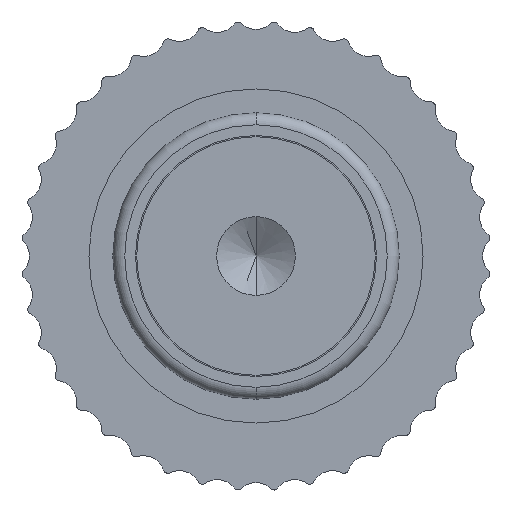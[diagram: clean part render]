
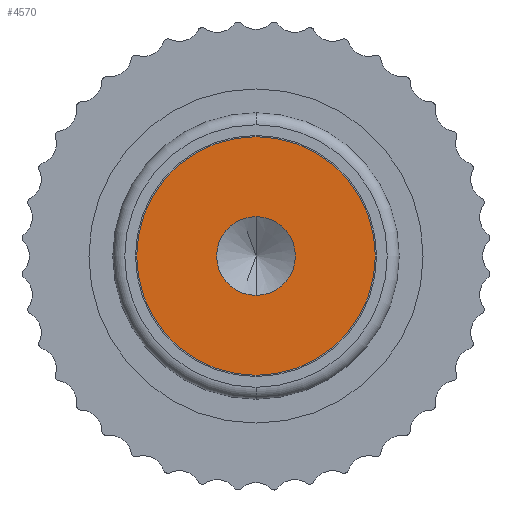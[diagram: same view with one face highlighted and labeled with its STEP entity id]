
A CAD part, front view. The second image highlights one B-rep face of the part: STEP entity #4570.
In plain terms, the highlighted planar face has unit normal (0, -1, 0).
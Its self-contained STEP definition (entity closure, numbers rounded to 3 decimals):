
#4 = FACE_BOUND ( 'NONE', #5237, .T. ) ;
#58 = EDGE_CURVE ( 'NONE', #85, #6948, #8779, .T. ) ;
#85 = VERTEX_POINT ( 'NONE', #5144 ) ;
#443 = EDGE_CURVE ( 'NONE', #5995, #527, #5630, .T. ) ;
#527 = VERTEX_POINT ( 'NONE', #3699 ) ;
#689 = ORIENTED_EDGE ( 'NONE', *, *, #58, .F. ) ;
#837 = CIRCLE ( 'NONE', #6977, 5. ) ;
#976 = CARTESIAN_POINT ( 'NONE',  ( 0., 0., 0. ) ) ;
#982 = EDGE_CURVE ( 'NONE', #527, #5995, #837, .T. ) ;
#1187 = EDGE_CURVE ( 'NONE', #6948, #85, #5299, .T. ) ;
#1288 = DIRECTION ( 'NONE',  ( 0., -1., 0. ) ) ;
#1539 = ORIENTED_EDGE ( 'NONE', *, *, #982, .T. ) ;
#1647 = DIRECTION ( 'NONE',  ( 0., 0., -1. ) ) ;
#1758 = AXIS2_PLACEMENT_3D ( 'NONE', #8092, #8116, #3931 ) ;
#1784 = CARTESIAN_POINT ( 'NONE',  ( 0., 0., 0. ) ) ;
#2477 = DIRECTION ( 'NONE',  ( 0., 0., -1. ) ) ;
#2551 = AXIS2_PLACEMENT_3D ( 'NONE', #1784, #6702, #2477 ) ;
#3233 = PLANE ( 'NONE',  #1758 ) ;
#3420 = FACE_OUTER_BOUND ( 'NONE', #7292, .T. ) ;
#3626 = DIRECTION ( 'NONE',  ( 0., -1., 0. ) ) ;
#3699 = CARTESIAN_POINT ( 'NONE',  ( 0., 0., -5. ) ) ;
#3931 = DIRECTION ( 'NONE',  ( 0., 0., -1. ) ) ;
#4570 = ADVANCED_FACE ( 'NONE', ( #4, #3420 ), #3233, .T. ) ;
#5144 = CARTESIAN_POINT ( 'NONE',  ( 0., 0., -1.65 ) ) ;
#5237 = EDGE_LOOP ( 'NONE', ( #689, #6485 ) ) ;
#5299 = CIRCLE ( 'NONE', #2551, 1.65 ) ;
#5474 = CARTESIAN_POINT ( 'NONE',  ( 0., 0., 0. ) ) ;
#5630 = CIRCLE ( 'NONE', #5722, 5. ) ;
#5722 = AXIS2_PLACEMENT_3D ( 'NONE', #7844, #3626, #8507 ) ;
#5745 = CARTESIAN_POINT ( 'NONE',  ( 0., 0., 1.65 ) ) ;
#5843 = DIRECTION ( 'NONE',  ( 0., -1., 0. ) ) ;
#5909 = AXIS2_PLACEMENT_3D ( 'NONE', #976, #5843, #1647 ) ;
#5995 = VERTEX_POINT ( 'NONE', #7872 ) ;
#6186 = DIRECTION ( 'NONE',  ( 0., 0., -1. ) ) ;
#6485 = ORIENTED_EDGE ( 'NONE', *, *, #1187, .F. ) ;
#6702 = DIRECTION ( 'NONE',  ( 0., -1., 0. ) ) ;
#6948 = VERTEX_POINT ( 'NONE', #5745 ) ;
#6977 = AXIS2_PLACEMENT_3D ( 'NONE', #5474, #1288, #6186 ) ;
#7292 = EDGE_LOOP ( 'NONE', ( #8308, #1539 ) ) ;
#7844 = CARTESIAN_POINT ( 'NONE',  ( 0., 0., 0. ) ) ;
#7872 = CARTESIAN_POINT ( 'NONE',  ( 0., 0., 5. ) ) ;
#8092 = CARTESIAN_POINT ( 'NONE',  ( 6., 0., 0. ) ) ;
#8116 = DIRECTION ( 'NONE',  ( 0., -1., 0. ) ) ;
#8308 = ORIENTED_EDGE ( 'NONE', *, *, #443, .T. ) ;
#8507 = DIRECTION ( 'NONE',  ( 0., 0., -1. ) ) ;
#8779 = CIRCLE ( 'NONE', #5909, 1.65 ) ;
